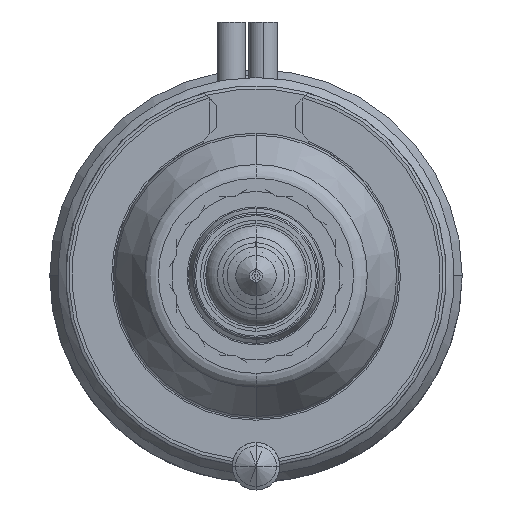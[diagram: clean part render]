
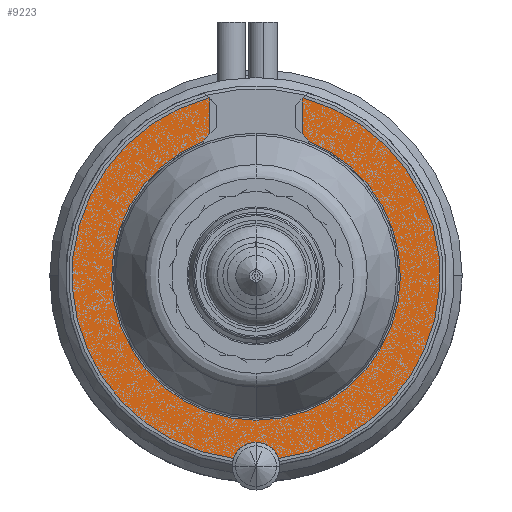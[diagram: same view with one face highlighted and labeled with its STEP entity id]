
A CAD part, front view. The second image highlights one B-rep face of the part: STEP entity #9223.
In plain terms, the highlighted planar face has unit normal (0, -1, 0).
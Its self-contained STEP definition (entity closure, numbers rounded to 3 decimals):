
#595=DIRECTION('',(0.707,0.,-0.707));
#596=VECTOR('',#595,0.092);
#597=CARTESIAN_POINT('',(-2.965,-22.,11.215));
#598=LINE('',#597,#596);
#1554=CARTESIAN_POINT('',(0.,-22.,6.2));
#1555=DIRECTION('',(0.,1.,0.));
#1556=DIRECTION('',(0.725,0.,0.689));
#1557=AXIS2_PLACEMENT_3D('',#1554,#1555,#1556);
#1569=CARTESIAN_POINT('',(0.,-22.,-12.));
#1570=DIRECTION('',(0.,1.,0.));
#1571=DIRECTION('',(-0.946,0.,0.325));
#1572=AXIS2_PLACEMENT_3D('',#1569,#1570,#1571);
#1588=CARTESIAN_POINT('',(0.,-22.,0.));
#1589=DIRECTION('',(0.,1.,0.));
#1590=DIRECTION('',(-0.122,0.,-0.992));
#1591=AXIS2_PLACEMENT_3D('',#1588,#1589,#1590);
#1600=CARTESIAN_POINT('',(0.,-22.,0.));
#1601=DIRECTION('',(0.,1.,0.));
#1602=DIRECTION('',(0.256,0.,0.967));
#1603=AXIS2_PLACEMENT_3D('',#1600,#1601,#1602);
#1616=DIRECTION('',(-0.707,0.,-0.707));
#1617=VECTOR('',#1616,0.092);
#1618=CARTESIAN_POINT('',(2.965,-22.,11.215));
#1619=LINE('',#1618,#1617);
#1624=DIRECTION('',(0.,0.,-1.));
#1625=VECTOR('',#1624,2.195);
#1626=CARTESIAN_POINT('',(2.9,-22.,11.15));
#1627=LINE('',#1626,#1625);
#1655=DIRECTION('',(0.,0.,1.));
#1656=VECTOR('',#1655,2.195);
#1657=CARTESIAN_POINT('',(-2.9,-22.,8.955));
#1658=LINE('',#1657,#1656);
#1690=CARTESIAN_POINT('',(0.,-22.,6.2));
#1691=DIRECTION('',(0.,1.,0.));
#1692=DIRECTION('',(-0.82,0.,0.572));
#1693=AXIS2_PLACEMENT_3D('',#1690,#1691,#1692);
#1705=CARTESIAN_POINT('',(0.,-22.,0.));
#1706=DIRECTION('',(0.,-1.,0.));
#1707=DIRECTION('',(-0.361,0.,0.933));
#1708=AXIS2_PLACEMENT_3D('',#1705,#1706,#1707);
#7338=CARTESIAN_POINT('',(2.965,-22.,11.215));
#7339=CARTESIAN_POINT('',(2.9,-22.,11.15));
#7340=VERTEX_POINT('',#7338);
#7341=VERTEX_POINT('',#7339);
#7346=CARTESIAN_POINT('',(-2.965,-22.,11.215));
#7347=CARTESIAN_POINT('',(-2.9,-22.,11.15));
#7348=VERTEX_POINT('',#7346);
#7349=VERTEX_POINT('',#7347);
#7384=CARTESIAN_POINT('',(2.9,-22.,8.955));
#7385=CARTESIAN_POINT('',(3.281,-22.,8.488));
#7386=VERTEX_POINT('',#7384);
#7387=VERTEX_POINT('',#7385);
#7388=CARTESIAN_POINT('',(-3.281,-22.,8.488));
#7389=CARTESIAN_POINT('',(-2.9,-22.,8.955));
#7390=VERTEX_POINT('',#7388);
#7391=VERTEX_POINT('',#7389);
#7533=CARTESIAN_POINT('',(-1.419,-22.,-11.513));
#7534=CARTESIAN_POINT('',(1.419,-22.,-11.513));
#7535=VERTEX_POINT('',#7533);
#7536=VERTEX_POINT('',#7534);
#9199=CARTESIAN_POINT('',(0.,-22.,0.));
#9200=DIRECTION('',(0.,-1.,0.));
#9201=DIRECTION('',(-1.,0.,0.));
#9202=AXIS2_PLACEMENT_3D('',#9199,#9200,#9201);
#9203=PLANE('',#9202);
#9204=ORIENTED_EDGE('',*,*,#8686,.F.);
#9206=ORIENTED_EDGE('',*,*,#9205,.T.);
#9207=ORIENTED_EDGE('',*,*,#8806,.T.);
#9209=ORIENTED_EDGE('',*,*,#9208,.F.);
#9211=ORIENTED_EDGE('',*,*,#9210,.F.);
#9213=ORIENTED_EDGE('',*,*,#9212,.T.);
#9214=ORIENTED_EDGE('',*,*,#9178,.F.);
#9216=ORIENTED_EDGE('',*,*,#9215,.F.);
#9218=ORIENTED_EDGE('',*,*,#9217,.F.);
#9220=ORIENTED_EDGE('',*,*,#9219,.T.);
#9221=EDGE_LOOP('',(#9204,#9206,#9207,#9209,#9211,#9213,#9214,#9216,#9218,
#9220));
#9222=FACE_OUTER_BOUND('',#9221,.F.);
#9223=ADVANCED_FACE('',(#9222),#9203,.T.);
#1558=CIRCLE('',#1557,4.);
#1573=CIRCLE('',#1572,1.5);
#1592=CIRCLE('',#1591,11.6);
#1604=CIRCLE('',#1603,11.6);
#1694=CIRCLE('',#1693,4.);
#1709=CIRCLE('',#1708,9.1);
#8686=EDGE_CURVE('',#7535,#7536,#1573,.T.);
#8806=EDGE_CURVE('',#7348,#7349,#598,.T.);
#9178=EDGE_CURVE('',#7386,#7387,#1558,.T.);
#9205=EDGE_CURVE('',#7535,#7348,#1592,.T.);
#9208=EDGE_CURVE('',#7391,#7349,#1658,.T.);
#9210=EDGE_CURVE('',#7390,#7391,#1694,.T.);
#9212=EDGE_CURVE('',#7390,#7387,#1709,.T.);
#9215=EDGE_CURVE('',#7341,#7386,#1627,.T.);
#9217=EDGE_CURVE('',#7340,#7341,#1619,.T.);
#9219=EDGE_CURVE('',#7340,#7536,#1604,.T.);
